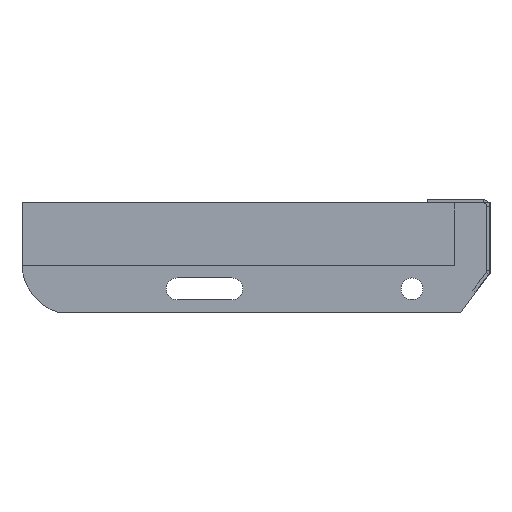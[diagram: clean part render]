
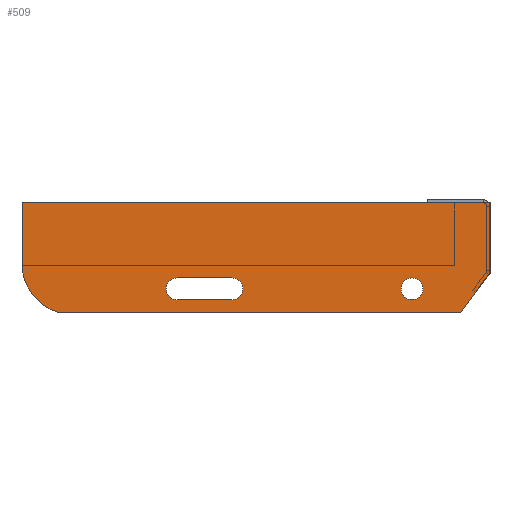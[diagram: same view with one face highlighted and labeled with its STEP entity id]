
A CAD part, left-side view. The second image highlights one B-rep face of the part: STEP entity #509.
In plain terms, the highlighted planar face has unit normal (-1, 0, 0) as drawn and (0, 0, 1) by its records, which use the part's own axes.
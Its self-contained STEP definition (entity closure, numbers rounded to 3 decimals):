
#8 = CARTESIAN_POINT ( 'NONE',  ( 0., 0., 3. ) ) ;
#12 = CARTESIAN_POINT ( 'NONE',  ( -165.5, -55., 3. ) ) ;
#26 = VERTEX_POINT ( 'NONE', #1385 ) ;
#45 = DIRECTION ( 'NONE',  ( 1., 0., 0. ) ) ;
#50 = CARTESIAN_POINT ( 'NONE',  ( 0., 0., 3. ) ) ;
#57 = CARTESIAN_POINT ( 'NONE',  ( -200.5, -48., 3. ) ) ;
#67 = LINE ( 'NONE', #1959, #292 ) ;
#76 = VERTEX_POINT ( 'NONE', #1232 ) ;
#91 = CARTESIAN_POINT ( 'NONE',  ( 0., -45., 3. ) ) ;
#97 = DIRECTION ( 'NONE',  ( 0., 0., 1. ) ) ;
#124 = DIRECTION ( 'NONE',  ( 0., 0., 1. ) ) ;
#127 = VECTOR ( 'NONE', #1538, 1000. ) ;
#131 = DIRECTION ( 'NONE',  ( 1., 0., 0. ) ) ;
#135 = AXIS2_PLACEMENT_3D ( 'NONE', #1333, #97, #1342 ) ;
#144 = ORIENTED_EDGE ( 'NONE', *, *, #541, .T. ) ;
#153 = DIRECTION ( 'NONE',  ( 1., 0., 0. ) ) ;
#164 = AXIS2_PLACEMENT_3D ( 'NONE', #12, #937, #153 ) ;
#271 = VERTEX_POINT ( 'NONE', #402 ) ;
#292 = VECTOR ( 'NONE', #1323, 1000. ) ;
#318 = VERTEX_POINT ( 'NONE', #91 ) ;
#328 = CIRCLE ( 'NONE', #135, 7. ) ;
#330 = EDGE_CURVE ( 'NONE', #1681, #318, #1814, .T. ) ;
#402 = CARTESIAN_POINT ( 'NONE',  ( -200.5, -62., 3. ) ) ;
#408 = VECTOR ( 'NONE', #760, 1000. ) ;
#432 = CARTESIAN_POINT ( 'NONE',  ( -267.5, -39., 3. ) ) ;
#461 = CARTESIAN_POINT ( 'NONE',  ( 0., 0., 3. ) ) ;
#481 = CARTESIAN_POINT ( 'NONE',  ( -300., 0., 3. ) ) ;
#485 = CARTESIAN_POINT ( 'NONE',  ( -300., 0., 3. ) ) ;
#500 = LINE ( 'NONE', #781, #1944 ) ;
#509 = ADVANCED_FACE ( 'NONE', ( #1350, #1986, #1201 ), #605, .T. ) ;
#524 = CIRCLE ( 'NONE', #818, 7. ) ;
#541 = EDGE_CURVE ( 'NONE', #26, #1681, #1210, .T. ) ;
#551 = ORIENTED_EDGE ( 'NONE', *, *, #1351, .F. ) ;
#563 = ORIENTED_EDGE ( 'NONE', *, *, #1927, .F. ) ;
#579 = EDGE_CURVE ( 'NONE', #271, #836, #500, .T. ) ;
#581 = VERTEX_POINT ( 'NONE', #485 ) ;
#595 = CARTESIAN_POINT ( 'NONE',  ( -165.5, -62., 3. ) ) ;
#599 = LINE ( 'NONE', #8, #1067 ) ;
#605 = PLANE ( 'NONE',  #1776 ) ;
#611 = CARTESIAN_POINT ( 'NONE',  ( -207.5, -55., 3. ) ) ;
#624 = DIRECTION ( 'NONE',  ( 0., 0., 1. ) ) ;
#643 = EDGE_CURVE ( 'NONE', #816, #26, #1729, .T. ) ;
#686 = CARTESIAN_POINT ( 'NONE',  ( -300., -39., 3. ) ) ;
#697 = VECTOR ( 'NONE', #1717, 1000. ) ;
#733 = CARTESIAN_POINT ( 'NONE',  ( -50., -55., 3. ) ) ;
#746 = DIRECTION ( 'NONE',  ( 1., 0., 0. ) ) ;
#754 = CARTESIAN_POINT ( 'NONE',  ( -200.5, -55., 3. ) ) ;
#760 = DIRECTION ( 'NONE',  ( 1., 0., 0. ) ) ;
#781 = CARTESIAN_POINT ( 'NONE',  ( -200.5, -62., 3. ) ) ;
#789 = LINE ( 'NONE', #481, #127 ) ;
#793 = DIRECTION ( 'NONE',  ( 0., 0., 1. ) ) ;
#816 = VERTEX_POINT ( 'NONE', #686 ) ;
#818 = AXIS2_PLACEMENT_3D ( 'NONE', #733, #1796, #1153 ) ;
#825 = CARTESIAN_POINT ( 'NONE',  ( -267.5, -39., 3. ) ) ;
#836 = VERTEX_POINT ( 'NONE', #595 ) ;
#847 = AXIS2_PLACEMENT_3D ( 'NONE', #825, #793, #1440 ) ;
#901 = EDGE_CURVE ( 'NONE', #836, #1279, #1956, .T. ) ;
#917 = EDGE_CURVE ( 'NONE', #581, #816, #789, .T. ) ;
#918 = DIRECTION ( 'NONE',  ( -1., 0., 0. ) ) ;
#922 = ORIENTED_EDGE ( 'NONE', *, *, #643, .T. ) ;
#937 = DIRECTION ( 'NONE',  ( 0., 0., 1. ) ) ;
#943 = AXIS2_PLACEMENT_3D ( 'NONE', #754, #624, #1369 ) ;
#955 = EDGE_LOOP ( 'NONE', ( #551, #1969 ) ) ;
#1007 = AXIS2_PLACEMENT_3D ( 'NONE', #1053, #1523, #131 ) ;
#1033 = EDGE_CURVE ( 'NONE', #1051, #271, #1599, .T. ) ;
#1051 = VERTEX_POINT ( 'NONE', #611 ) ;
#1053 = CARTESIAN_POINT ( 'NONE',  ( -50., -55., 3. ) ) ;
#1059 = EDGE_CURVE ( 'NONE', #318, #1161, #1854, .T. ) ;
#1060 = CARTESIAN_POINT ( 'NONE',  ( -18.839, -70., 3. ) ) ;
#1067 = VECTOR ( 'NONE', #918, 1000. ) ;
#1076 = DIRECTION ( 'NONE',  ( 0., 1., 0. ) ) ;
#1104 = ORIENTED_EDGE ( 'NONE', *, *, #917, .T. ) ;
#1153 = DIRECTION ( 'NONE',  ( 1., 0., 0. ) ) ;
#1161 = VERTEX_POINT ( 'NONE', #50 ) ;
#1175 = VERTEX_POINT ( 'NONE', #1775 ) ;
#1201 = FACE_BOUND ( 'NONE', #1935, .T. ) ;
#1210 = LINE ( 'NONE', #1060, #408 ) ;
#1212 = ORIENTED_EDGE ( 'NONE', *, *, #1978, .F. ) ;
#1232 = CARTESIAN_POINT ( 'NONE',  ( -57., -55., 3. ) ) ;
#1259 = VECTOR ( 'NONE', #1076, 1000. ) ;
#1279 = VERTEX_POINT ( 'NONE', #1310 ) ;
#1287 = ORIENTED_EDGE ( 'NONE', *, *, #330, .T. ) ;
#1310 = CARTESIAN_POINT ( 'NONE',  ( -165.5, -48., 3. ) ) ;
#1323 = DIRECTION ( 'NONE',  ( -1., 0., 0. ) ) ;
#1333 = CARTESIAN_POINT ( 'NONE',  ( -200.5, -55., 3. ) ) ;
#1342 = DIRECTION ( 'NONE',  ( 1., 0., 0. ) ) ;
#1350 = FACE_OUTER_BOUND ( 'NONE', #1739, .T. ) ;
#1351 = EDGE_CURVE ( 'NONE', #76, #1175, #524, .T. ) ;
#1369 = DIRECTION ( 'NONE',  ( 1., 0., 0. ) ) ;
#1385 = CARTESIAN_POINT ( 'NONE',  ( -277.26, -70., 3. ) ) ;
#1431 = CIRCLE ( 'NONE', #1007, 7. ) ;
#1433 = CARTESIAN_POINT ( 'NONE',  ( -18.839, -70., 3. ) ) ;
#1440 = DIRECTION ( 'NONE',  ( 1., 0., 0. ) ) ;
#1523 = DIRECTION ( 'NONE',  ( 0., 0., 1. ) ) ;
#1524 = ORIENTED_EDGE ( 'NONE', *, *, #1033, .F. ) ;
#1538 = DIRECTION ( 'NONE',  ( 0., -1., 0. ) ) ;
#1542 = ORIENTED_EDGE ( 'NONE', *, *, #1579, .T. ) ;
#1548 = ORIENTED_EDGE ( 'NONE', *, *, #901, .F. ) ;
#1577 = EDGE_CURVE ( 'NONE', #1175, #76, #1431, .T. ) ;
#1579 = EDGE_CURVE ( 'NONE', #1161, #581, #599, .T. ) ;
#1599 = CIRCLE ( 'NONE', #943, 7. ) ;
#1681 = VERTEX_POINT ( 'NONE', #1433 ) ;
#1702 = VERTEX_POINT ( 'NONE', #57 ) ;
#1707 = CARTESIAN_POINT ( 'NONE',  ( 0., -45., 3. ) ) ;
#1717 = DIRECTION ( 'NONE',  ( 0.602, 0.799, 0. ) ) ;
#1729 = CIRCLE ( 'NONE', #847, 32.5 ) ;
#1739 = EDGE_LOOP ( 'NONE', ( #1812, #1542, #1104, #922, #144, #1287 ) ) ;
#1775 = CARTESIAN_POINT ( 'NONE',  ( -43., -55., 3. ) ) ;
#1776 = AXIS2_PLACEMENT_3D ( 'NONE', #432, #124, #746 ) ;
#1796 = DIRECTION ( 'NONE',  ( 0., 0., 1. ) ) ;
#1812 = ORIENTED_EDGE ( 'NONE', *, *, #1059, .T. ) ;
#1814 = LINE ( 'NONE', #1707, #697 ) ;
#1854 = LINE ( 'NONE', #461, #1259 ) ;
#1927 = EDGE_CURVE ( 'NONE', #1702, #1051, #328, .T. ) ;
#1935 = EDGE_LOOP ( 'NONE', ( #1960, #1524, #563, #1212, #1548 ) ) ;
#1944 = VECTOR ( 'NONE', #45, 1000. ) ;
#1956 = CIRCLE ( 'NONE', #164, 7. ) ;
#1959 = CARTESIAN_POINT ( 'NONE',  ( -200.5, -48., 3. ) ) ;
#1960 = ORIENTED_EDGE ( 'NONE', *, *, #579, .F. ) ;
#1969 = ORIENTED_EDGE ( 'NONE', *, *, #1577, .F. ) ;
#1978 = EDGE_CURVE ( 'NONE', #1279, #1702, #67, .T. ) ;
#1986 = FACE_BOUND ( 'NONE', #955, .T. ) ;
